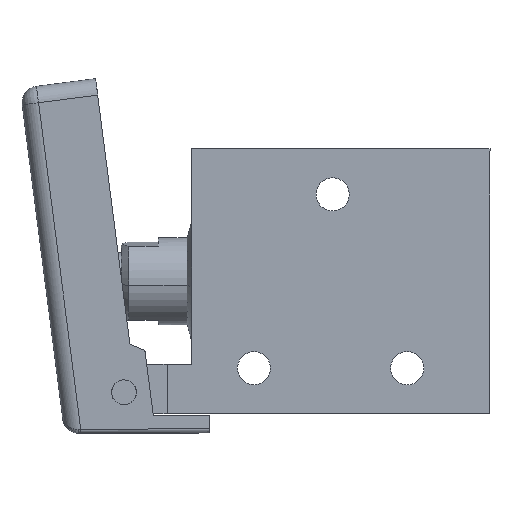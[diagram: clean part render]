
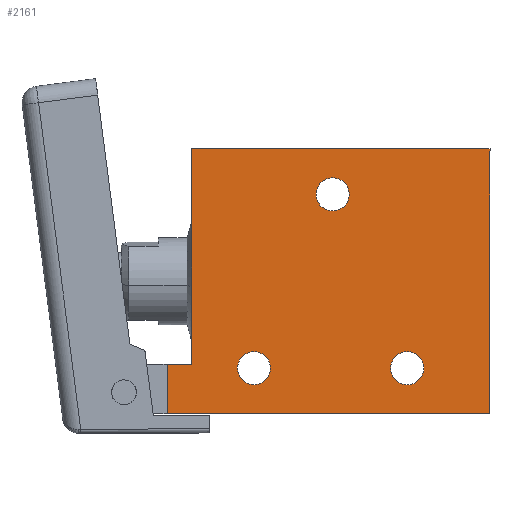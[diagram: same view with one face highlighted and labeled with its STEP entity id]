
A CAD part, left-side view. The second image highlights one B-rep face of the part: STEP entity #2161.
In plain terms, the highlighted planar face has unit normal (-1, 0, 0).
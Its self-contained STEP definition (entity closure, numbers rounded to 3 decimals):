
#1 = DIRECTION ( 'NONE',  ( -1., 0., 0. ) ) ;
#20 = DIRECTION ( 'NONE',  ( 0., -1., 0. ) ) ;
#98 = VERTEX_POINT ( 'NONE', #3312 ) ;
#104 = CARTESIAN_POINT ( 'NONE',  ( 34.832, 38.409, 53.147 ) ) ;
#113 = LINE ( 'NONE', #730, #1421 ) ;
#133 = ORIENTED_EDGE ( 'NONE', *, *, #2792, .F. ) ;
#151 = EDGE_LOOP ( 'NONE', ( #1612, #921 ) ) ;
#153 = EDGE_CURVE ( 'NONE', #1758, #2061, #3093, .T. ) ;
#197 = DIRECTION ( 'NONE',  ( 0., 0., 1. ) ) ;
#208 = AXIS2_PLACEMENT_3D ( 'NONE', #2495, #2472, #2518 ) ;
#307 = EDGE_CURVE ( 'NONE', #1139, #98, #3288, .T. ) ;
#329 = AXIS2_PLACEMENT_3D ( 'NONE', #104, #1, #20 ) ;
#340 = VECTOR ( 'NONE', #3278, 1000. ) ;
#344 = VERTEX_POINT ( 'NONE', #2489 ) ;
#353 = CARTESIAN_POINT ( 'NONE',  ( 34.832, 58.409, 32.647 ) ) ;
#372 = EDGE_CURVE ( 'NONE', #463, #2845, #3125, .T. ) ;
#404 = EDGE_CURVE ( 'NONE', #2475, #344, #1031, .T. ) ;
#439 = EDGE_CURVE ( 'NONE', #2061, #1758, #1407, .T. ) ;
#463 = VERTEX_POINT ( 'NONE', #2276 ) ;
#535 = CARTESIAN_POINT ( 'NONE',  ( 34.832, 27.409, 32.147 ) ) ;
#611 = FACE_OUTER_BOUND ( 'NONE', #1760, .T. ) ;
#667 = CARTESIAN_POINT ( 'NONE',  ( 34.832, 29.409, 32.147 ) ) ;
#690 = FACE_BOUND ( 'NONE', #3219, .T. ) ;
#696 = AXIS2_PLACEMENT_3D ( 'NONE', #1021, #2860, #1263 ) ;
#711 = EDGE_CURVE ( 'NONE', #3046, #1154, #2302, .T. ) ;
#719 = CARTESIAN_POINT ( 'NONE',  ( 34.832, 66.109, 26.647 ) ) ;
#730 = CARTESIAN_POINT ( 'NONE',  ( 34.832, 19.409, 26.647 ) ) ;
#750 = CARTESIAN_POINT ( 'NONE',  ( 34.832, 66.109, 58.647 ) ) ;
#765 = DIRECTION ( 'NONE',  ( 0., -1., 0. ) ) ;
#774 = DIRECTION ( 'NONE',  ( -1., 0., 0. ) ) ;
#781 = DIRECTION ( 'NONE',  ( 0., -1., 0. ) ) ;
#824 = CARTESIAN_POINT ( 'NONE',  ( 34.832, 58.409, 26.647 ) ) ;
#886 = ORIENTED_EDGE ( 'NONE', *, *, #3027, .T. ) ;
#921 = ORIENTED_EDGE ( 'NONE', *, *, #153, .F. ) ;
#933 = LINE ( 'NONE', #3026, #2255 ) ;
#947 = ORIENTED_EDGE ( 'NONE', *, *, #404, .T. ) ;
#988 = ORIENTED_EDGE ( 'NONE', *, *, #3309, .F. ) ;
#1021 = CARTESIAN_POINT ( 'NONE',  ( 34.832, 47.909, 32.147 ) ) ;
#1029 = ORIENTED_EDGE ( 'NONE', *, *, #2696, .F. ) ;
#1031 = LINE ( 'NONE', #2323, #340 ) ;
#1139 = VERTEX_POINT ( 'NONE', #2908 ) ;
#1154 = VERTEX_POINT ( 'NONE', #2888 ) ;
#1167 = DIRECTION ( 'NONE',  ( 0., 0., 1. ) ) ;
#1253 = VECTOR ( 'NONE', #1554, 1000. ) ;
#1263 = DIRECTION ( 'NONE',  ( 0., -1., 0. ) ) ;
#1267 = FACE_BOUND ( 'NONE', #151, .T. ) ;
#1407 = CIRCLE ( 'NONE', #208, 2. ) ;
#1421 = VECTOR ( 'NONE', #197, 1000. ) ;
#1455 = VECTOR ( 'NONE', #765, 1000. ) ;
#1456 = CARTESIAN_POINT ( 'NONE',  ( 34.832, 49.909, 32.147 ) ) ;
#1489 = CIRCLE ( 'NONE', #2487, 2. ) ;
#1513 = CARTESIAN_POINT ( 'NONE',  ( 34.832, 58.409, 32.647 ) ) ;
#1515 = CARTESIAN_POINT ( 'NONE',  ( 34.832, 36.409, 53.147 ) ) ;
#1532 = LINE ( 'NONE', #750, #1455 ) ;
#1554 = DIRECTION ( 'NONE',  ( 0., -1., 0. ) ) ;
#1612 = ORIENTED_EDGE ( 'NONE', *, *, #439, .F. ) ;
#1692 = AXIS2_PLACEMENT_3D ( 'NONE', #2833, #2844, #2855 ) ;
#1758 = VERTEX_POINT ( 'NONE', #2580 ) ;
#1760 = EDGE_LOOP ( 'NONE', ( #133, #1802, #1029, #947, #886, #2205 ) ) ;
#1802 = ORIENTED_EDGE ( 'NONE', *, *, #307, .F. ) ;
#1922 = DIRECTION ( 'NONE',  ( 0., -1., 0. ) ) ;
#1942 = DIRECTION ( 'NONE',  ( 0., 0., 1. ) ) ;
#2003 = FACE_BOUND ( 'NONE', #2759, .T. ) ;
#2061 = VERTEX_POINT ( 'NONE', #535 ) ;
#2070 = EDGE_CURVE ( 'NONE', #2162, #2725, #1532, .T. ) ;
#2140 = ORIENTED_EDGE ( 'NONE', *, *, #372, .F. ) ;
#2147 = DIRECTION ( 'NONE',  ( -1., 0., 0. ) ) ;
#2161 = ADVANCED_FACE ( 'NONE', ( #2003, #1267, #690, #611 ), #2280, .F. ) ;
#2162 = VERTEX_POINT ( 'NONE', #2316 ) ;
#2205 = ORIENTED_EDGE ( 'NONE', *, *, #2070, .F. ) ;
#2242 = ORIENTED_EDGE ( 'NONE', *, *, #2373, .F. ) ;
#2255 = VECTOR ( 'NONE', #1167, 1000. ) ;
#2276 = CARTESIAN_POINT ( 'NONE',  ( 34.832, 45.909, 32.147 ) ) ;
#2280 = PLANE ( 'NONE',  #2890 ) ;
#2302 = CIRCLE ( 'NONE', #329, 2. ) ;
#2316 = CARTESIAN_POINT ( 'NONE',  ( 34.832, 55.409, 58.647 ) ) ;
#2323 = CARTESIAN_POINT ( 'NONE',  ( 34.832, 66.109, 26.647 ) ) ;
#2353 = DIRECTION ( 'NONE',  ( 0., 1., 0. ) ) ;
#2367 = DIRECTION ( 'NONE',  ( 1., 0., 0. ) ) ;
#2373 = EDGE_CURVE ( 'NONE', #1154, #3046, #1489, .T. ) ;
#2431 = CARTESIAN_POINT ( 'NONE',  ( 34.832, 38.409, 53.147 ) ) ;
#2472 = DIRECTION ( 'NONE',  ( -1., 0., 0. ) ) ;
#2475 = VERTEX_POINT ( 'NONE', #824 ) ;
#2487 = AXIS2_PLACEMENT_3D ( 'NONE', #2431, #2147, #1922 ) ;
#2489 = CARTESIAN_POINT ( 'NONE',  ( 34.832, 19.409, 26.647 ) ) ;
#2495 = CARTESIAN_POINT ( 'NONE',  ( 34.832, 29.409, 32.147 ) ) ;
#2518 = DIRECTION ( 'NONE',  ( 0., -1., 0. ) ) ;
#2580 = CARTESIAN_POINT ( 'NONE',  ( 34.832, 31.409, 32.147 ) ) ;
#2696 = EDGE_CURVE ( 'NONE', #2475, #1139, #2812, .T. ) ;
#2725 = VERTEX_POINT ( 'NONE', #3238 ) ;
#2759 = EDGE_LOOP ( 'NONE', ( #2140, #988 ) ) ;
#2792 = EDGE_CURVE ( 'NONE', #98, #2162, #933, .T. ) ;
#2812 = LINE ( 'NONE', #353, #2889 ) ;
#2833 = CARTESIAN_POINT ( 'NONE',  ( 34.832, 47.909, 32.147 ) ) ;
#2844 = DIRECTION ( 'NONE',  ( -1., 0., 0. ) ) ;
#2845 = VERTEX_POINT ( 'NONE', #1456 ) ;
#2848 = CIRCLE ( 'NONE', #696, 2. ) ;
#2855 = DIRECTION ( 'NONE',  ( 0., -1., 0. ) ) ;
#2860 = DIRECTION ( 'NONE',  ( -1., 0., 0. ) ) ;
#2888 = CARTESIAN_POINT ( 'NONE',  ( 34.832, 40.409, 53.147 ) ) ;
#2889 = VECTOR ( 'NONE', #1942, 1000. ) ;
#2890 = AXIS2_PLACEMENT_3D ( 'NONE', #719, #2367, #2353 ) ;
#2908 = CARTESIAN_POINT ( 'NONE',  ( 34.832, 58.409, 32.647 ) ) ;
#2934 = ORIENTED_EDGE ( 'NONE', *, *, #711, .F. ) ;
#3001 = AXIS2_PLACEMENT_3D ( 'NONE', #667, #774, #781 ) ;
#3026 = CARTESIAN_POINT ( 'NONE',  ( 34.832, 55.409, 26.647 ) ) ;
#3027 = EDGE_CURVE ( 'NONE', #344, #2725, #113, .T. ) ;
#3046 = VERTEX_POINT ( 'NONE', #1515 ) ;
#3093 = CIRCLE ( 'NONE', #3001, 2. ) ;
#3125 = CIRCLE ( 'NONE', #1692, 2. ) ;
#3219 = EDGE_LOOP ( 'NONE', ( #2934, #2242 ) ) ;
#3238 = CARTESIAN_POINT ( 'NONE',  ( 34.832, 19.409, 58.647 ) ) ;
#3278 = DIRECTION ( 'NONE',  ( 0., -1., 0. ) ) ;
#3288 = LINE ( 'NONE', #1513, #1253 ) ;
#3309 = EDGE_CURVE ( 'NONE', #2845, #463, #2848, .T. ) ;
#3312 = CARTESIAN_POINT ( 'NONE',  ( 34.832, 55.409, 32.647 ) ) ;
